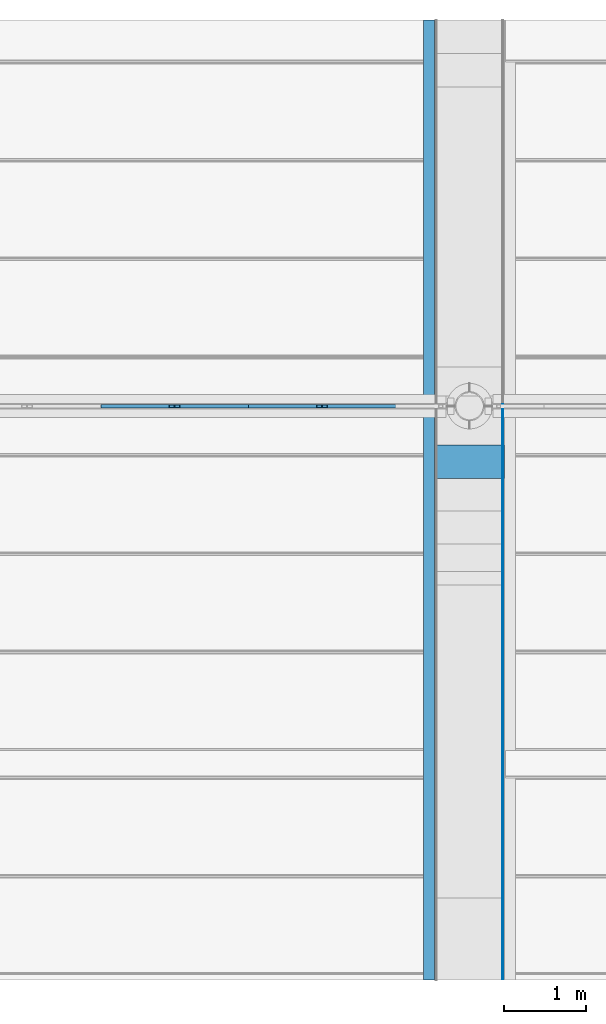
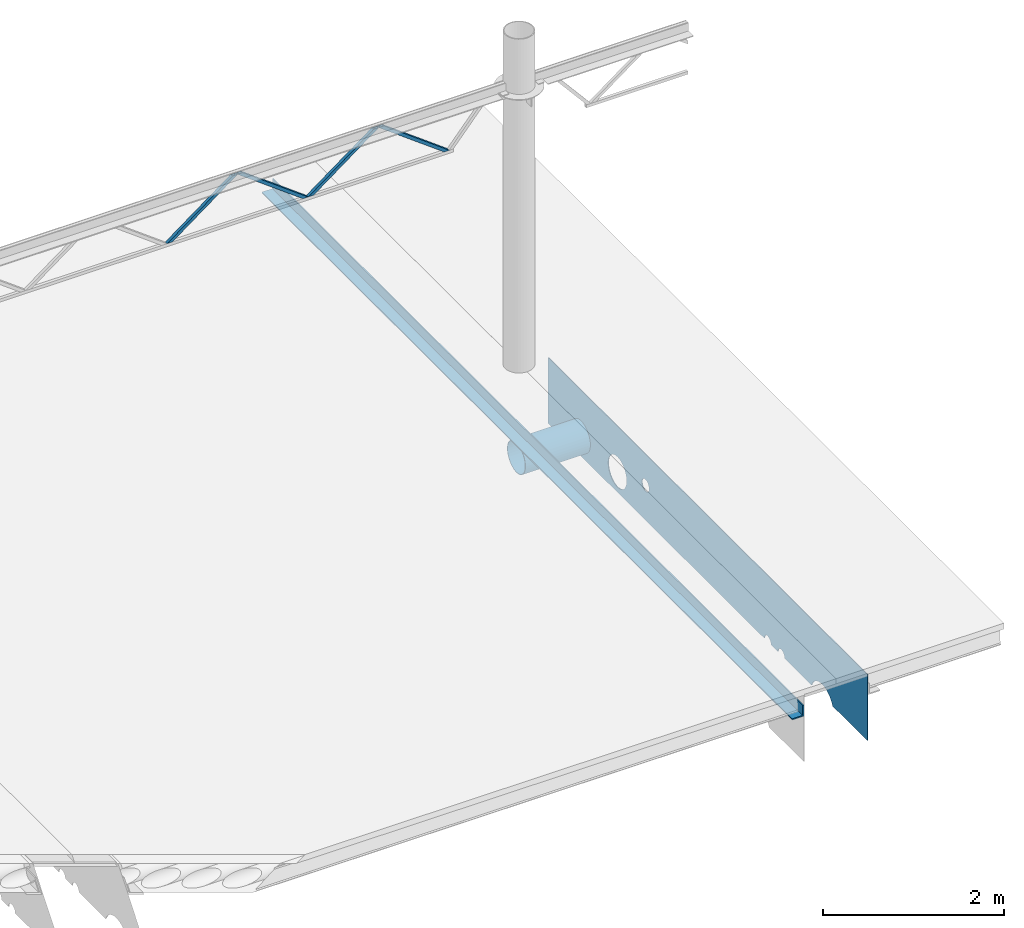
# One storey, part 7 of 21: 7 beams.
"""IFC2X3 building model written with IfcOpenShell, lengths in millimetres."""

from ifc_helpers import new_model, entity, si_unit, converted_unit, derived_unit, direction, frame, origin_with_axes, place, context, subcontext, project, spatial, faceted_brep, material, type_object, element, save


model = new_model("IFC2X3")

# Units and contexts
model_context = context("Model", 3, precision=0.01, world=frame((0.0, 4.29681676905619e-09, 0.0)), true_north=direction((4.01073788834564e-13, 1.0)))
plan_context = context("Plan", 3, precision=0.01, world=frame((0.0, 4.29681676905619e-09, 0.0)), true_north=direction((4.01073788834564e-13, 1.0)))
body_context = subcontext(model_context, "Body", "Model", "MODEL_VIEW")
ifc_project = project(units=[converted_unit("PLANEANGLEUNIT", "DEGREE", entity("IfcPositiveLengthMeasure", 0.0174532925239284), si_unit("PLANEANGLEUNIT", "RADIAN"), dimensions=[0, 0, 0, 0, 0, 0, 0]), si_unit("AREAUNIT", "SQUARE_METRE"), si_unit("LENGTHUNIT", "METRE", prefix="MILLI"), si_unit("MASSUNIT", "GRAM", prefix="KILO"), si_unit("POWERUNIT", "WATT"), si_unit("PRESSUREUNIT", "PASCAL", prefix="KILO"), si_unit("FORCEUNIT", "NEWTON", prefix="KILO"), si_unit("ELECTRICVOLTAGEUNIT", "VOLT"), si_unit("ELECTRICCURRENTUNIT", "AMPERE"), si_unit("THERMODYNAMICTEMPERATUREUNIT", "DEGREE_CELSIUS"), si_unit("TIMEUNIT", "SECOND"), si_unit("VOLUMEUNIT", "CUBIC_METRE"), derived_unit("LINEARVELOCITYUNIT", [(si_unit("LENGTHUNIT", "METRE"), 1), (si_unit("TIMEUNIT", "SECOND"), -1)]), derived_unit("VOLUMETRICFLOWRATEUNIT", [(si_unit("VOLUMEUNIT", "CUBIC_METRE"), 1), (si_unit("TIMEUNIT", "SECOND"), -1)]), derived_unit("THERMALTRANSMITTANCEUNIT", [(si_unit("POWERUNIT", "WATT"), 1), (si_unit("THERMODYNAMICTEMPERATUREUNIT", "KELVIN"), -1), (si_unit("AREAUNIT", "SQUARE_METRE"), -1)]), derived_unit("SOUNDPRESSUREUNIT", [(si_unit("PRESSUREUNIT", "PASCAL"), 1)])], contexts=[model_context, plan_context])

# Site, building, storey
site_placement = place(None, frame((0.0, -4.29681676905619e-09, 0.0), z_axis=(0.0, 0.0, 1.0), x_axis=(1.0, 0.0, 0.0)))
site = spatial("IfcSite", under=ifc_project, at=site_placement, Name="Gardermoen", CompositionType="ELEMENT")
building_placement = place(site_placement, frame((0.0, 4.29681676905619e-09, 0.0), z_axis=(0.0, 0.0, 1.0), x_axis=(1.0, 0.0, 0.0)))
building = spatial("IfcBuilding", under=site, at=building_placement, Name="TS", CompositionType="ELEMENT")
storey_placement = place(building_placement, origin_with_axes())
storey = spatial("IfcBuildingStorey", under=building, at=storey_placement, Name="F", CompositionType="ELEMENT", Elevation=0.0)

# Beams
ifc_material = material(Name="STEEL/S355")
beam_type_1 = type_object("IfcBeamType", Name="RHS40*4", PredefinedType="NOTDEFINED")
for number, where, z_axis, x_axis in (
    (1, (723400.500033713, 441499.999999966, 214725.999924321), (0.597135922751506, 0.0, -0.802140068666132), (-0.802140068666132, 0.0, -0.597135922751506)),
    (2, (723400.500033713, 441499.999999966, 214725.999924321), (-0.597135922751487, 0.0, -0.802140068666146), (0.802140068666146, 0.0, -0.597135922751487)),
    (3, (725200.500033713, 441499.999999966, 214725.999924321), (0.597135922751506, 0.0, -0.802140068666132), (-0.802140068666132, 0.0, -0.597135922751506)),
    (4, (725200.500033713, 441499.999999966, 214725.999924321), (-0.597135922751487, 0.0, -0.802140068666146), (0.802140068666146, 0.0, -0.597135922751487)),
):
    element("IfcBeam", number, at=place(storey_placement, frame(where, z_axis=z_axis, x_axis=x_axis)), inside=storey, type_object=beam_type_1, material=ifc_material, Name="STÅLBJELKE", ObjectType="RHS40*4", context=body_context, shape_type="Brep", body=[
        faceted_brep([(63.3368514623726, 16.0, -15.9999999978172), (63.3368514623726, -16.0, -15.9999999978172), (1101.64711034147, -16.0, -15.999999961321), (1101.64711034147, 16.0, -15.999999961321), (20.3508557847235, -16.0, 16.0000000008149), (1058.66111466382, -16.0, 16.0000000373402), (20.3508557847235, 16.0, 16.0000000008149), (1058.66111466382, 16.0, 16.0000000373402), (68.7101009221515, 20.0, -19.9999999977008), (14.9776063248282, 20.0, 20.0000000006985), (1053.28786520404, 20.0, 20.0000000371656), (1107.02035980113, 20.0, -19.9999999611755), (14.9776063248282, -20.0, 20.0000000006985), (1053.28786520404, -20.0, 20.0000000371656), (68.7101009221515, -20.0, -19.9999999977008), (1107.02035980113, -20.0, -19.9999999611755)], [[[0, 1, 2, 3]], [[1, 4, 5, 2]], [[4, 6, 7, 5]], [[6, 0, 3, 7]], [[8, 9, 10, 11]], [[9, 12, 13, 10]], [[12, 14, 15, 13]], [[14, 8, 11, 15]], [[13, 15, 11, 10], [5, 7, 3, 2]], [[14, 12, 9, 8], [6, 4, 1, 0]]]),
    ])
beam_type_2 = type_object("IfcBeamType", Name="RØR406.4X6.3", PredefinedType="NOTDEFINED")
beam_1_placement = place(storey_placement, frame((727427.0, 440820.0, 210175.0), z_axis=(0.0, 0.0, 1.0), x_axis=(-0.999999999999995, -9.99999902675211e-08, 0.0)))
element("IfcBeam", 5, at=beam_1_placement, inside=storey, type_object=beam_type_2, material=ifc_material, Name="STÅLBJELKE", ObjectType="RØR406.4X6.3", context=body_context, shape_type="Brep", body=[
    faceted_brep([(0.0, -196.900000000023, 0.0), (0.0, -193.908646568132, 34.1913261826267), (854.0, -193.908646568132, 34.1913261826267), (854.0, -196.900000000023, 0.0), (0.0, -185.025477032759, 67.3437662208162), (854.0, -185.025477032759, 67.3437662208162), (0.0, -170.520402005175, 98.4500000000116), (854.0, -170.520402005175, 98.4500000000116), (0.0, -150.834150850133, 126.564880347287), (854.0, -150.834150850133, 126.564880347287), (0.0, -126.564880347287, 150.834150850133), (854.0, -126.564880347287, 150.834150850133), (0.0, -98.4500000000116, 170.520402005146), (854.0, -98.4500000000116, 170.520402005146), (0.0, -67.3437662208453, 185.025477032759), (854.0, -67.3437662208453, 185.025477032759), (0.0, -34.1913261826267, 193.908646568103), (854.0, -34.1913261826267, 193.908646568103), (0.0, 0.0, 196.899999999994), (854.0, 0.0, 196.899999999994), (0.0, 34.1913261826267, 193.908646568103), (854.0, 34.1913261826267, 193.908646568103), (0.0, 67.3437662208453, 185.025477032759), (854.0, 67.3437662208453, 185.025477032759), (0.0, 98.4500000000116, 170.520402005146), (854.0, 98.4500000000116, 170.520402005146), (0.0, 126.564880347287, 150.834150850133), (854.0, 126.564880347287, 150.834150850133), (0.0, 150.834150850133, 126.564880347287), (854.0, 150.834150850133, 126.564880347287), (0.0, 170.520402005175, 98.4500000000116), (854.0, 170.520402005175, 98.4500000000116), (0.0, 185.025477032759, 67.3437662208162), (854.0, 185.025477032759, 67.3437662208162), (0.0, 193.908646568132, 34.1913261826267), (854.0, 193.908646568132, 34.1913261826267), (0.0, 196.900000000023, 0.0), (854.0, 196.900000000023, 0.0), (0.0, 193.908646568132, -34.1913261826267), (854.0, 193.908646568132, -34.1913261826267), (0.0, 185.025477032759, -67.3437662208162), (854.0, 185.025477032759, -67.3437662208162), (0.0, 170.520402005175, -98.4500000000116), (854.0, 170.520402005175, -98.4500000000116), (0.0, 150.834150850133, -126.564880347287), (854.0, 150.834150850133, -126.564880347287), (0.0, 126.564880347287, -150.834150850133), (854.0, 126.564880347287, -150.834150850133), (0.0, 98.4500000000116, -170.520402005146), (854.0, 98.4500000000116, -170.520402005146), (0.0, 67.3437662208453, -185.025477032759), (854.0, 67.3437662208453, -185.025477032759), (0.0, 34.1913261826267, -193.908646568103), (854.0, 34.1913261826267, -193.908646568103), (0.0, 0.0, -196.899999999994), (854.0, 0.0, -196.899999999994), (0.0, -34.1913261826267, -193.908646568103), (854.0, -34.1913261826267, -193.908646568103), (0.0, -67.3437662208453, -185.025477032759), (854.0, -67.3437662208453, -185.025477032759), (0.0, -98.4500000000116, -170.520402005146), (854.0, -98.4500000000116, -170.520402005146), (0.0, -126.564880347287, -150.834150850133), (854.0, -126.564880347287, -150.834150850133), (0.0, -150.834150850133, -126.564880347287), (854.0, -150.834150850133, -126.564880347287), (0.0, -170.520402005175, -98.4500000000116), (854.0, -170.520402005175, -98.4500000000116), (0.0, -185.025477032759, -67.3437662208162), (854.0, -185.025477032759, -67.3437662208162), (0.0, -193.908646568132, -34.1913261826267), (854.0, -193.908646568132, -34.1913261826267), (0.0, -203.200000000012, 0.0), (0.0, -200.112935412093, -35.2853097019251), (854.0, -200.112935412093, -35.2853097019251), (854.0, -203.200000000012, 0.0), (0.0, -190.945540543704, -69.4984931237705), (854.0, -190.945540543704, -69.4984931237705), (0.0, -175.976362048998, -101.600000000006), (854.0, -175.976362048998, -101.600000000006), (0.0, -155.660230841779, -130.614442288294), (854.0, -155.660230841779, -130.614442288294), (0.0, -130.614442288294, -155.660230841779), (854.0, -130.614442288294, -155.660230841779), (0.0, -101.599999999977, -175.976362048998), (854.0, -101.599999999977, -175.976362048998), (0.0, -69.4984931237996, -190.945540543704), (854.0, -69.4984931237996, -190.945540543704), (0.0, -35.2853097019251, -200.112935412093), (854.0, -35.2853097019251, -200.112935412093), (0.0, 0.0, -203.200000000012), (854.0, 0.0, -203.200000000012), (0.0, 35.2853097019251, -200.112935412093), (854.0, 35.2853097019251, -200.112935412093), (0.0, 69.4984931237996, -190.945540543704), (854.0, 69.4984931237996, -190.945540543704), (0.0, 101.599999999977, -175.976362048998), (854.0, 101.599999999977, -175.976362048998), (0.0, 130.614442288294, -155.660230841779), (854.0, 130.614442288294, -155.660230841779), (0.0, 155.660230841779, -130.614442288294), (854.0, 155.660230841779, -130.614442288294), (0.0, 175.976362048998, -101.600000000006), (854.0, 175.976362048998, -101.600000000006), (0.0, 190.945540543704, -69.4984931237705), (854.0, 190.945540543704, -69.4984931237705), (0.0, 200.112935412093, -35.2853097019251), (854.0, 200.112935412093, -35.2853097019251), (0.0, 203.200000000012, 0.0), (854.0, 203.200000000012, 0.0), (0.0, 200.112935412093, 35.2853097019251), (854.0, 200.112935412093, 35.2853097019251), (0.0, 190.945540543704, 69.4984931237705), (854.0, 190.945540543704, 69.4984931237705), (0.0, 175.976362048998, 101.600000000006), (854.0, 175.976362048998, 101.600000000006), (0.0, 155.660230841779, 130.614442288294), (854.0, 155.660230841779, 130.614442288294), (0.0, 130.614442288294, 155.660230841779), (854.0, 130.614442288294, 155.660230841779), (0.0, 101.599999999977, 175.976362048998), (854.0, 101.599999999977, 175.976362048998), (0.0, 69.4984931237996, 190.945540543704), (854.0, 69.4984931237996, 190.945540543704), (0.0, 35.2853097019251, 200.112935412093), (854.0, 35.2853097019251, 200.112935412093), (0.0, 0.0, 203.200000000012), (854.0, 0.0, 203.200000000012), (0.0, -35.2853097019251, 200.112935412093), (854.0, -35.2853097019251, 200.112935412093), (0.0, -69.4984931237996, 190.945540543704), (854.0, -69.4984931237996, 190.945540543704), (0.0, -101.599999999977, 175.976362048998), (854.0, -101.599999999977, 175.976362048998), (0.0, -130.614442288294, 155.660230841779), (854.0, -130.614442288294, 155.660230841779), (0.0, -155.660230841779, 130.614442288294), (854.0, -155.660230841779, 130.614442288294), (0.0, -175.976362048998, 101.600000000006), (854.0, -175.976362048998, 101.600000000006), (0.0, -190.945540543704, 69.4984931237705), (854.0, -190.945540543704, 69.4984931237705), (0.0, -200.112935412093, 35.2853097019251), (854.0, -200.112935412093, 35.2853097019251)], [[[0, 1, 2, 3]], [[1, 4, 5, 2]], [[4, 6, 7, 5]], [[6, 8, 9, 7]], [[8, 10, 11, 9]], [[10, 12, 13, 11]], [[12, 14, 15, 13]], [[14, 16, 17, 15]], [[16, 18, 19, 17]], [[18, 20, 21, 19]], [[20, 22, 23, 21]], [[22, 24, 25, 23]], [[24, 26, 27, 25]], [[26, 28, 29, 27]], [[28, 30, 31, 29]], [[30, 32, 33, 31]], [[32, 34, 35, 33]], [[34, 36, 37, 35]], [[36, 38, 39, 37]], [[38, 40, 41, 39]], [[40, 42, 43, 41]], [[42, 44, 45, 43]], [[44, 46, 47, 45]], [[46, 48, 49, 47]], [[48, 50, 51, 49]], [[50, 52, 53, 51]], [[52, 54, 55, 53]], [[54, 56, 57, 55]], [[56, 58, 59, 57]], [[58, 60, 61, 59]], [[60, 62, 63, 61]], [[62, 64, 65, 63]], [[64, 66, 67, 65]], [[66, 68, 69, 67]], [[68, 70, 71, 69]], [[70, 0, 3, 71]], [[72, 73, 74, 75]], [[73, 76, 77, 74]], [[76, 78, 79, 77]], [[78, 80, 81, 79]], [[80, 82, 83, 81]], [[82, 84, 85, 83]], [[84, 86, 87, 85]], [[86, 88, 89, 87]], [[88, 90, 91, 89]], [[90, 92, 93, 91]], [[92, 94, 95, 93]], [[94, 96, 97, 95]], [[96, 98, 99, 97]], [[98, 100, 101, 99]], [[100, 102, 103, 101]], [[102, 104, 105, 103]], [[104, 106, 107, 105]], [[106, 108, 109, 107]], [[108, 110, 111, 109]], [[110, 112, 113, 111]], [[112, 114, 115, 113]], [[114, 116, 117, 115]], [[116, 118, 119, 117]], [[118, 120, 121, 119]], [[120, 122, 123, 121]], [[122, 124, 125, 123]], [[124, 126, 127, 125]], [[126, 128, 129, 127]], [[128, 130, 131, 129]], [[130, 132, 133, 131]], [[132, 134, 135, 133]], [[134, 136, 137, 135]], [[136, 138, 139, 137]], [[138, 140, 141, 139]], [[140, 142, 143, 141]], [[142, 72, 75, 143]], [[77, 79, 81, 83, 85, 87, 89, 91, 93, 95, 97, 99, 101, 103, 105, 107, 109, 111, 113, 115, 117, 119, 121, 123, 125, 127, 129, 131, 133, 135, 137, 139, 141, 143, 75, 74], [5, 7, 9, 11, 13, 15, 17, 19, 21, 23, 25, 27, 29, 31, 33, 35, 37, 39, 41, 43, 45, 47, 49, 51, 53, 55, 57, 59, 61, 63, 65, 67, 69, 71, 3, 2]], [[142, 140, 138, 136, 134, 132, 130, 128, 126, 124, 122, 120, 118, 116, 114, 112, 110, 108, 106, 104, 102, 100, 98, 96, 94, 92, 90, 88, 86, 84, 82, 80, 78, 76, 73, 72], [70, 68, 66, 64, 62, 60, 58, 56, 54, 52, 50, 48, 46, 44, 42, 40, 38, 36, 34, 32, 30, 28, 26, 24, 22, 20, 18, 16, 14, 12, 10, 8, 6, 4, 1, 0]]]),
])
beam_type_3 = type_object("IfcBeamType", Name="L150*15", PredefinedType="NOTDEFINED")
beam_2_placement = place(storey_placement, frame((726515.0, 457700.0, 210590.0), z_axis=(0.0, 0.0, 1.0), x_axis=(0.0, -1.0, 0.0)))
element("IfcBeam", 6, at=beam_2_placement, inside=storey, type_object=beam_type_3, Name="STÅLBJELKE", ObjectType="L150*15", context=body_context, shape_type="Brep", body=[
    faceted_brep([(23200.9920111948, 75.0, -75.0), (23200.9920111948, 75.0, 75.0), (11488.5755361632, 75.0, 75.0), (11488.5755361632, 75.0, -75.0), (23200.9920111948, 60.0, 75.0), (11488.5755361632, 60.0, 75.0), (23200.9920111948, 60.0, -59.9999999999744), (11488.5755361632, 60.0, -59.9999999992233), (23200.9920111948, -75.0, -60.0), (11488.5755361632, -75.0, -60.0), (23200.9920111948, -75.000000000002, -75.0), (11488.5755361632, -75.0000000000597, -75.0)], [[[0, 1, 2, 3]], [[1, 4, 5, 2]], [[4, 6, 7, 5]], [[6, 8, 9, 7]], [[8, 10, 11, 9]], [[10, 0, 3, 11]], [[5, 7, 9, 11, 3, 2]], [[10, 8, 6, 4, 1, 0]]], orient=[[False], [False], [False], [False], [False], [False], [False], [False]]),
])
beam_type_4 = type_object("IfcBeamType", Name="1470*10", PredefinedType="NOTDEFINED")
beam_3_placement = place(storey_placement, frame((727405.0, 434100.0, 210055.0), z_axis=(0.0, 0.0, 1.0), x_axis=(0.0, 1.0, 0.0)))
element("IfcBeam", 7, at=beam_3_placement, inside=storey, type_object=beam_type_4, Name="STÅLBJELKE", ObjectType="1470*10", context=body_context, shape_type="Brep", body=[
    faceted_brep([(5369.28203230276, -5.0, 275.0), (5369.28203230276, 5.0, 275.0), (5377.2740661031, 5.0, 294.294476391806), (5377.2740661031, -5.0, 294.294476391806), (5380.0, 5.0, 315.0), (5380.0, -5.0, 315.0), (5377.2740661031, 5.0, 335.705523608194), (5377.2740661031, -5.0, 335.705523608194), (5369.28203230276, 5.0, 355.0), (5369.28203230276, -5.0, 355.0), (5356.5685424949, 5.0, 371.568542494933), (5356.5685424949, -5.0, 371.568542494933), (5340.0, 5.0, 384.282032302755), (5340.0, -5.0, 384.282032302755), (5320.70552360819, 5.0, 392.274066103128), (5320.70552360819, -5.0, 392.274066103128), (5300.0, 5.0, 395.0), (5300.0, -5.0, 395.0), (5279.29447639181, 5.0, 392.274066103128), (5279.29447639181, -5.0, 392.274066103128), (5260.0, 5.0, 384.282032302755), (5260.0, -5.0, 384.282032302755), (5243.4314575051, 5.0, 371.568542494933), (5243.4314575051, -5.0, 371.568542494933), (5230.71796769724, 5.0, 355.0), (5230.71796769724, -5.0, 355.0), (5222.7259338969, 5.0, 335.705523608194), (5222.7259338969, -5.0, 335.705523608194), (5220.0, 5.0, 315.0), (5220.0, -5.0, 315.0), (5222.7259338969, 5.0, 294.294476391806), (5222.7259338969, -5.0, 294.294476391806), (5230.71796769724, 5.0, 275.0), (5230.71796769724, -5.0, 275.0), (5243.4314575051, 5.0, 258.431457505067), (5243.4314575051, -5.0, 258.431457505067), (5260.0, 5.0, 245.717967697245), (5260.0, -5.0, 245.717967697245), (5279.29447639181, 5.0, 237.725933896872), (5279.29447639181, -5.0, 237.725933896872), (5300.0, 5.0, 235.0), (5300.0, -5.0, 235.0), (5320.70552360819, 5.0, 237.725933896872), (5320.70552360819, -5.0, 237.725933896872), (5340.0, 5.0, 245.717967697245), (5340.0, -5.0, 245.717967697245), (5356.5685424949, 5.0, 258.431457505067), (5356.5685424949, -5.0, 258.431457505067), (399.007988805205, -5.0, 735.0), (399.007988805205, 5.0, 735.0), (7450.0, 5.0, 735.0), (7450.0, -5.0, 735.0), (7450.0, 5.0, -155.0), (7450.0, -5.0, -155.0), (1166.26219191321, 5.0, -155.0), (1166.26219191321, -5.0, -155.0), (1172.79333633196, -5.0, -139.23242256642), (1172.79333633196, 5.0, -139.23242256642), (1193.70066643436, -5.0, -105.114760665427), (1193.70066643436, 5.0, -105.114760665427), (1219.68777079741, -5.0, -74.6877707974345), (1219.68777079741, 5.0, -74.6877707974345), (1250.1147606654, -5.0, -48.7006664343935), (1250.1147606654, 5.0, -48.7006664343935), (1284.23242256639, -5.0, -27.7933363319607), (1284.23242256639, 5.0, -27.7933363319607), (1321.20066643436, -5.0, -12.4805883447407), (1321.20066643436, 5.0, -12.4805883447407), (1360.10921141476, -5.0, -3.13947314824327), (1360.10921141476, 5.0, -3.13947314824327), (1400.0, -5.0, 0.0), (1400.0, 5.0, 0.0), (1439.89078858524, -5.0, -3.13947314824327), (1439.89078858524, 5.0, -3.13947314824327), (1478.79933356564, -5.0, -12.4805883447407), (1478.79933356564, 5.0, -12.4805883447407), (1515.76757743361, -5.0, -27.7933363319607), (1515.76757743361, 5.0, -27.7933363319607), (1549.8852393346, -5.0, -48.7006664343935), (1549.8852393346, 5.0, -48.7006664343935), (1580.31222920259, -5.0, -74.6877707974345), (1580.31222920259, 5.0, -74.6877707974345), (1606.29933356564, -5.0, -105.114760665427), (1606.29933356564, 5.0, -105.114760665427), (1627.20666366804, -5.0, -139.23242256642), (1627.20666366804, 5.0, -139.23242256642), (1633.73780808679, -5.0, -155.0), (1633.73780808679, 5.0, -155.0), (2375.0, -5.0, -155.0), (2375.0, 5.0, -155.0), (2372.44443697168, 5.0, -135.588571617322), (2372.44443697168, -5.0, -135.588571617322), (2227.55556302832, -5.0, -135.588571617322), (2227.55556302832, 5.0, -135.588571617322), (2225.0, 5.0, -155.0), (2225.0, -5.0, -155.0), (2235.04809471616, -5.0, -117.5), (2235.04809471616, 5.0, -117.5), (2246.966991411, -5.0, -101.966991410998), (2246.966991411, 5.0, -101.966991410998), (2262.5, -5.0, -90.0480947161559), (2262.5, 5.0, -90.0480947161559), (2280.58857161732, -5.0, -82.5555630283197), (2280.58857161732, 5.0, -82.5555630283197), (2300.0, -5.0, -80.0), (2300.0, 5.0, -80.0), (2319.41142838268, -5.0, -82.5555630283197), (2319.41142838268, 5.0, -82.5555630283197), (2337.5, -5.0, -90.0480947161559), (2337.5, 5.0, -90.0480947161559), (2353.033008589, -5.0, -101.966991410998), (2353.033008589, 5.0, -101.966991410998), (2364.95190528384, -5.0, -117.5), (2364.95190528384, 5.0, -117.5), (2675.0, -5.0, -155.0), (2675.0, 5.0, -155.0), (2672.44443697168, 5.0, -135.588571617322), (2672.44443697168, -5.0, -135.588571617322), (2527.55556302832, -5.0, -135.588571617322), (2527.55556302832, 5.0, -135.588571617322), (2525.0, 5.0, -155.0), (2525.0, -5.0, -155.0), (2535.04809471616, -5.0, -117.5), (2535.04809471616, 5.0, -117.5), (2546.966991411, -5.0, -101.966991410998), (2546.966991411, 5.0, -101.966991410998), (2562.5, -5.0, -90.0480947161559), (2562.5, 5.0, -90.0480947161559), (2580.58857161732, -5.0, -82.5555630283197), (2580.58857161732, 5.0, -82.5555630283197), (2600.0, -5.0, -80.0), (2600.0, 5.0, -80.0), (2619.41142838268, -5.0, -82.5555630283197), (2619.41142838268, 5.0, -82.5555630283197), (2637.5, -5.0, -90.0480947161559), (2637.5, 5.0, -90.0480947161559), (2653.033008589, -5.0, -101.966991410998), (2653.033008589, 5.0, -101.966991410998), (2664.95190528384, -5.0, -117.5), (2664.95190528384, 5.0, -117.5), (6124.0, -5.0, 120.0), (6124.0, 5.0, 120.0), (6120.90078161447, 5.0, 155.424228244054), (6120.90078161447, -5.0, 155.424228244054), (6120.90078161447, -5.0, 84.5757717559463), (6120.90078161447, 5.0, 84.5757717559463), (6111.69729464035, -5.0, 50.2278907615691), (6111.69729464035, 5.0, 50.2278907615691), (6096.66918237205, -5.0, 18.0), (6096.66918237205, 5.0, 18.0), (6076.27306639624, -5.0, -11.1286723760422), (6076.27306639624, 5.0, -11.1286723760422), (6051.12867237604, -5.0, -36.273066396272), (6051.12867237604, 5.0, -36.273066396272), (6022.0, -5.0, -56.6691823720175), (6022.0, 5.0, -56.6691823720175), (5989.77210923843, -5.0, -71.6972946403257), (5989.77210923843, 5.0, -71.6972946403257), (5955.42422824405, -5.0, -80.9007816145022), (5955.42422824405, 5.0, -80.9007816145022), (5920.0, -5.0, -84.0), (5920.0, 5.0, -84.0), (5884.57577175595, -5.0, -80.9007816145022), (5884.57577175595, 5.0, -80.9007816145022), (5850.22789076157, -5.0, -71.6972946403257), (5850.22789076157, 5.0, -71.6972946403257), (5818.0, -5.0, -56.6691823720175), (5818.0, 5.0, -56.6691823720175), (5788.87132762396, -5.0, -36.273066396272), (5788.87132762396, 5.0, -36.273066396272), (5763.72693360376, -5.0, -11.1286723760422), (5763.72693360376, 5.0, -11.1286723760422), (5743.33081762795, -5.0, 18.0), (5743.33081762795, 5.0, 18.0), (5728.30270535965, -5.0, 50.2278907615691), (5728.30270535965, 5.0, 50.2278907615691), (5719.09921838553, -5.0, 84.5757717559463), (5719.09921838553, 5.0, 84.5757717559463), (5716.0, -5.0, 120.0), (5716.0, 5.0, 120.0), (5719.09921838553, -5.0, 155.424228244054), (5719.09921838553, 5.0, 155.424228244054), (5728.30270535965, -5.0, 189.772109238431), (5728.30270535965, 5.0, 189.772109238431), (5743.33081762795, -5.0, 222.0), (5743.33081762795, 5.0, 222.0), (5763.72693360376, -5.0, 251.128672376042), (5763.72693360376, 5.0, 251.128672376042), (5788.87132762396, -5.0, 276.273066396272), (5788.87132762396, 5.0, 276.273066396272), (5818.0, -5.0, 296.669182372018), (5818.0, 5.0, 296.669182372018), (5850.22789076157, -5.0, 311.697294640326), (5850.22789076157, 5.0, 311.697294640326), (5884.57577175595, -5.0, 320.900781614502), (5884.57577175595, 5.0, 320.900781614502), (5920.0, -5.0, 324.0), (5920.0, 5.0, 324.0), (5955.42422824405, -5.0, 320.900781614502), (5955.42422824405, 5.0, 320.900781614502), (5989.77210923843, -5.0, 311.697294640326), (5989.77210923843, 5.0, 311.697294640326), (6022.0, -5.0, 296.669182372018), (6022.0, 5.0, 296.669182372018), (6051.12867237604, -5.0, 276.273066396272), (6051.12867237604, 5.0, 276.273066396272), (6076.27306639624, -5.0, 251.128672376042), (6076.27306639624, 5.0, 251.128672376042), (6096.66918237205, -5.0, 222.0), (6096.66918237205, 5.0, 222.0), (6111.69729464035, -5.0, 189.772109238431), (6111.69729464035, 5.0, 189.772109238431), (399.007988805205, -5.0, -155.0), (6920.90078161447, -5.0, 84.5757717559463), (6924.0, -5.0, 120.0), (6920.90078161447, -5.0, 155.424228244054), (6911.69729464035, -5.0, 189.772109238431), (6896.66918237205, -5.0, 222.0), (6876.27306639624, -5.0, 251.128672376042), (6851.12867237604, -5.0, 276.273066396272), (6822.0, -5.0, 296.669182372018), (6789.77210923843, -5.0, 311.697294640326), (6755.42422824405, -5.0, 320.900781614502), (6720.0, -5.0, 324.0), (6684.57577175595, -5.0, 320.900781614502), (6650.22789076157, -5.0, 311.697294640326), (6618.0, -5.0, 296.669182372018), (6588.87132762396, -5.0, 276.273066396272), (6563.72693360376, -5.0, 251.128672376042), (6543.33081762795, -5.0, 222.0), (6528.30270535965, -5.0, 189.772109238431), (6519.09921838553, -5.0, 155.424228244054), (6516.0, -5.0, 120.0), (6519.09921838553, -5.0, 84.5757717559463), (6528.30270535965, -5.0, 50.2278907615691), (6543.33081762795, -5.0, 18.0), (6563.72693360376, -5.0, -11.1286723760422), (6588.87132762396, -5.0, -36.273066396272), (6618.0, -5.0, -56.6691823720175), (6650.22789076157, -5.0, -71.6972946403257), (6684.57577175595, -5.0, -80.9007816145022), (6720.0, -5.0, -84.0), (6755.42422824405, -5.0, -80.9007816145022), (6789.77210923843, -5.0, -71.6972946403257), (6822.0, -5.0, -56.6691823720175), (6851.12867237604, -5.0, -36.273066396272), (6876.27306639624, -5.0, -11.1286723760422), (6896.66918237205, -5.0, 18.0), (6911.69729464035, -5.0, 50.2278907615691), (6920.90078161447, 5.0, 155.424228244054), (6911.69729464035, 5.0, 189.772109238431), (6924.0, 5.0, 120.0), (6920.90078161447, 5.0, 84.5757717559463), (6911.69729464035, 5.0, 50.2278907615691), (6896.66918237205, 5.0, 18.0), (6876.27306639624, 5.0, -11.1286723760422), (6851.12867237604, 5.0, -36.273066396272), (6822.0, 5.0, -56.6691823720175), (6789.77210923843, 5.0, -71.6972946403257), (6755.42422824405, 5.0, -80.9007816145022), (6720.0, 5.0, -84.0), (6684.57577175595, 5.0, -80.9007816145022), (6650.22789076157, 5.0, -71.6972946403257), (6618.0, 5.0, -56.6691823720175), (6588.87132762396, 5.0, -36.273066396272), (6563.72693360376, 5.0, -11.1286723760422), (6543.33081762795, 5.0, 18.0), (6528.30270535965, 5.0, 50.2278907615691), (6519.09921838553, 5.0, 84.5757717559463), (6516.0, 5.0, 120.0), (6519.09921838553, 5.0, 155.424228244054), (6528.30270535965, 5.0, 189.772109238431), (6543.33081762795, 5.0, 222.0), (6563.72693360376, 5.0, 251.128672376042), (6588.87132762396, 5.0, 276.273066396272), (6618.0, 5.0, 296.669182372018), (6650.22789076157, 5.0, 311.697294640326), (6684.57577175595, 5.0, 320.900781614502), (6720.0, 5.0, 324.0), (6755.42422824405, 5.0, 320.900781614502), (6789.77210923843, 5.0, 311.697294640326), (6822.0, 5.0, 296.669182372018), (6851.12867237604, 5.0, 276.273066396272), (6876.27306639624, 5.0, 251.128672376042), (6896.66918237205, 5.0, 222.0), (399.007988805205, 5.0, -155.0)], [[[0, 1, 2, 3]], [[3, 2, 4, 5]], [[5, 4, 6, 7]], [[7, 6, 8, 9]], [[9, 8, 10, 11]], [[11, 10, 12, 13]], [[13, 12, 14, 15]], [[15, 14, 16, 17]], [[17, 16, 18, 19]], [[19, 18, 20, 21]], [[21, 20, 22, 23]], [[23, 22, 24, 25]], [[25, 24, 26, 27]], [[27, 26, 28, 29]], [[29, 28, 30, 31]], [[31, 30, 32, 33]], [[33, 32, 34, 35]], [[35, 34, 36, 37]], [[37, 36, 38, 39]], [[39, 38, 40, 41]], [[41, 40, 42, 43]], [[43, 42, 44, 45]], [[45, 44, 46, 47]], [[47, 46, 1, 0]], [[48, 49, 50, 51]], [[52, 53, 51, 50]], [[54, 55, 56, 57]], [[58, 59, 57, 56]], [[60, 61, 59, 58]], [[62, 63, 61, 60]], [[64, 65, 63, 62]], [[66, 67, 65, 64]], [[68, 69, 67, 66]], [[70, 71, 69, 68]], [[72, 73, 71, 70]], [[74, 75, 73, 72]], [[76, 77, 75, 74]], [[78, 79, 77, 76]], [[80, 81, 79, 78]], [[82, 83, 81, 80]], [[84, 85, 83, 82]], [[86, 87, 85, 84]], [[88, 89, 90, 91]], [[92, 93, 94, 95]], [[96, 97, 93, 92]], [[98, 99, 97, 96]], [[100, 101, 99, 98]], [[102, 103, 101, 100]], [[104, 105, 103, 102]], [[106, 107, 105, 104]], [[108, 109, 107, 106]], [[110, 111, 109, 108]], [[112, 113, 111, 110]], [[91, 90, 113, 112]], [[114, 115, 116, 117]], [[118, 119, 120, 121]], [[122, 123, 119, 118]], [[124, 125, 123, 122]], [[126, 127, 125, 124]], [[128, 129, 127, 126]], [[130, 131, 129, 128]], [[132, 133, 131, 130]], [[134, 135, 133, 132]], [[136, 137, 135, 134]], [[138, 139, 137, 136]], [[117, 116, 139, 138]], [[140, 141, 142, 143]], [[144, 145, 141, 140]], [[146, 147, 145, 144]], [[148, 149, 147, 146]], [[150, 151, 149, 148]], [[152, 153, 151, 150]], [[154, 155, 153, 152]], [[156, 157, 155, 154]], [[158, 159, 157, 156]], [[160, 161, 159, 158]], [[162, 163, 161, 160]], [[164, 165, 163, 162]], [[166, 167, 165, 164]], [[168, 169, 167, 166]], [[170, 171, 169, 168]], [[172, 173, 171, 170]], [[174, 175, 173, 172]], [[176, 177, 175, 174]], [[178, 179, 177, 176]], [[180, 181, 179, 178]], [[182, 183, 181, 180]], [[184, 185, 183, 182]], [[186, 187, 185, 184]], [[188, 189, 187, 186]], [[190, 191, 189, 188]], [[192, 193, 191, 190]], [[194, 195, 193, 192]], [[196, 197, 195, 194]], [[198, 199, 197, 196]], [[200, 201, 199, 198]], [[202, 203, 201, 200]], [[204, 205, 203, 202]], [[206, 207, 205, 204]], [[208, 209, 207, 206]], [[210, 211, 209, 208]], [[143, 142, 211, 210]], [[53, 114, 117, 138, 136, 134, 132, 130, 128, 126, 124, 122, 118, 121, 88, 91, 112, 110, 108, 106, 104, 102, 100, 98, 96, 92, 95, 86, 84, 82, 80, 78, 76, 74, 72, 70, 68, 66, 64, 62, 60, 58, 56, 55, 212, 48, 51], [3, 5, 7, 9, 11, 13, 15, 17, 19, 21, 23, 25, 27, 29, 31, 33, 35, 37, 39, 41, 43, 45, 47, 0], [213, 214, 215, 216, 217, 218, 219, 220, 221, 222, 223, 224, 225, 226, 227, 228, 229, 230, 231, 232, 233, 234, 235, 236, 237, 238, 239, 240, 241, 242, 243, 244, 245, 246, 247, 248], [144, 140, 143, 210, 208, 206, 204, 202, 200, 198, 196, 194, 192, 190, 188, 186, 184, 182, 180, 178, 176, 174, 172, 170, 168, 166, 164, 162, 160, 158, 156, 154, 152, 150, 148, 146]], [[215, 249, 250, 216]], [[214, 251, 249, 215]], [[213, 252, 251, 214]], [[248, 253, 252, 213]], [[247, 254, 253, 248]], [[246, 255, 254, 247]], [[245, 256, 255, 246]], [[244, 257, 256, 245]], [[243, 258, 257, 244]], [[242, 259, 258, 243]], [[241, 260, 259, 242]], [[240, 261, 260, 241]], [[239, 262, 261, 240]], [[238, 263, 262, 239]], [[237, 264, 263, 238]], [[236, 265, 264, 237]], [[235, 266, 265, 236]], [[234, 267, 266, 235]], [[233, 268, 267, 234]], [[232, 269, 268, 233]], [[231, 270, 269, 232]], [[230, 271, 270, 231]], [[229, 272, 271, 230]], [[228, 273, 272, 229]], [[227, 274, 273, 228]], [[226, 275, 274, 227]], [[225, 276, 275, 226]], [[224, 277, 276, 225]], [[223, 278, 277, 224]], [[222, 279, 278, 223]], [[221, 280, 279, 222]], [[220, 281, 280, 221]], [[219, 282, 281, 220]], [[218, 283, 282, 219]], [[217, 284, 283, 218]], [[216, 250, 284, 217]], [[49, 285, 54, 57, 59, 61, 63, 65, 67, 69, 71, 73, 75, 77, 79, 81, 83, 85, 87, 94, 93, 97, 99, 101, 103, 105, 107, 109, 111, 113, 90, 89, 120, 119, 123, 125, 127, 129, 131, 133, 135, 137, 139, 116, 115, 52, 50], [6, 4, 2, 1, 46, 44, 42, 40, 38, 36, 34, 32, 30, 28, 26, 24, 22, 20, 18, 16, 14, 12, 10, 8], [249, 251, 252, 253, 254, 255, 256, 257, 258, 259, 260, 261, 262, 263, 264, 265, 266, 267, 268, 269, 270, 271, 272, 273, 274, 275, 276, 277, 278, 279, 280, 281, 282, 283, 284, 250], [142, 141, 145, 147, 149, 151, 153, 155, 157, 159, 161, 163, 165, 167, 169, 171, 173, 175, 177, 179, 181, 183, 185, 187, 189, 191, 193, 195, 197, 199, 201, 203, 205, 207, 209, 211]], [[285, 49, 48, 212]], [[212, 55, 54, 285]], [[115, 114, 53, 52]], [[95, 94, 87, 86]], [[121, 120, 89, 88]]], orient=[[False], [False], [False], [False], [False], [False], [False], [False], [False], [False], [False], [False], [False], [False], [False], [False], [False], [False], [False], [False], [False], [False], [False], [False], [False], [False], [False], [False], [False], [False], [False], [False], [False], [False], [False], [False], [False], [False], [False], [False], [False], [False], [False], [False], [False], [False], [False], [False], [False], [False], [False], [False], [False], [False], [False], [False], [False], [False], [False], [False], [False], [False], [False], [False], [False], [False], [False], [False], [False], [False], [False], [False], [False], [False], [False], [False], [False], [False], [False], [False], [False], [False], [False], [False], [False], [False], [False], [False], [False], [False], [False], [False], [False], [False], [False], [False], [False], [False], [False], [False], [False], [False], [False, False, False, False], [False], [False], [False], [False], [False], [False], [False], [False], [False], [False], [False], [False], [False], [False], [False], [False], [False], [False], [False], [False], [False], [False], [False], [False], [False], [False], [False], [False], [False], [False], [False], [False], [False], [False], [False], [False], [False, False, False, False], [False], [False], [False], [False], [False]]),
])

save(model, "model.ifc")
